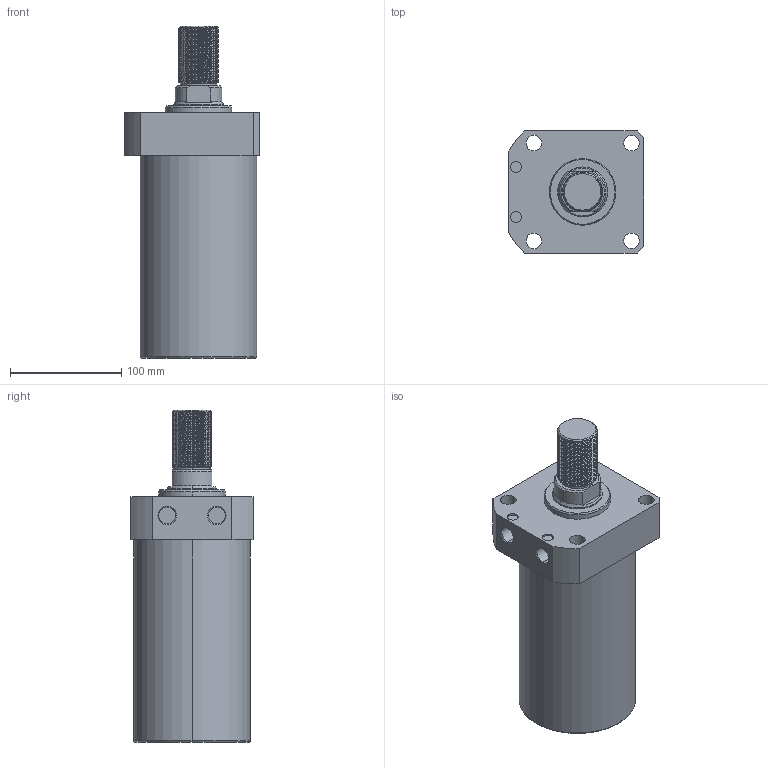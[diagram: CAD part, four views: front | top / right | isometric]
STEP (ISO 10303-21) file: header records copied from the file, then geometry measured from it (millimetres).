
FILE_DESCRIPTION (( 'STEP AP214' ), '1' );
FILE_NAME ('CLLR-105CT-135.STEP', '2020-01-10T05:59:11', ( 'Windows' ), ( 'Microsoft' ), 'SwSTEP 2.0', 'SolidWorks 2015', '' );
FILE_SCHEMA (( 'AUTOMOTIVE_DESIGN' ));
Length unit declared in the file: millimetre
Products named in the file (1): CLLR-105CT-135
Bounding box: 122 x 110 x 299 mm (x, y, z)
Volume: 2148310.3 mm3; surface area: 124551 mm2
Topology: 1 solids, 1 shells, 136 faces, 364 edges, 238 vertices
Faces by surface type: cylinder 96, plane 20, cone 16, torus 2, bspline 2
Entity records: 7996 total; most frequent: CARTESIAN_POINT 4869, ORIENTED_EDGE 728, DIRECTION 563, EDGE_CURVE 364, VERTEX_POINT 238, AXIS2_PLACEMENT_3D 215, EDGE_LOOP 152, FACE_OUTER_BOUND 136
